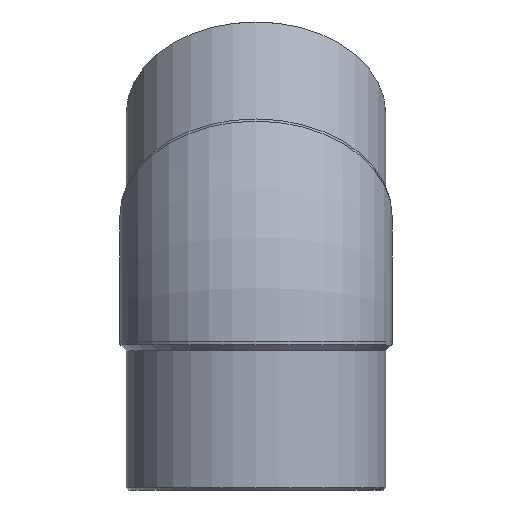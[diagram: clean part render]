
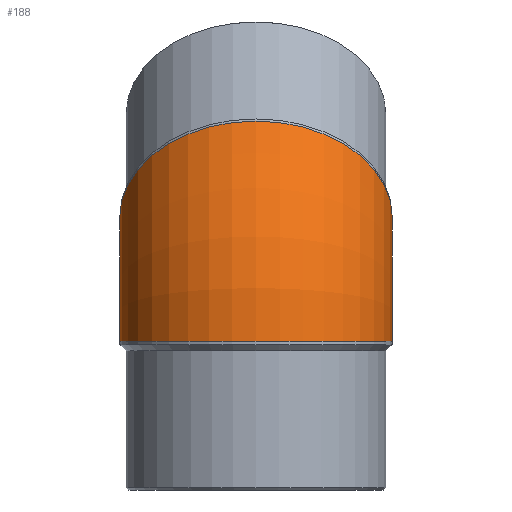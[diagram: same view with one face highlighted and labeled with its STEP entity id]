
A CAD part, left-side view. The second image highlights one B-rep face of the part: STEP entity #188.
In plain terms, the highlighted toroidal (fillet/blend) face has major radius 168.995 mm and minor radius 131 mm.
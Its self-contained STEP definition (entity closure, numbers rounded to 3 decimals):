
#20=TOROIDAL_SURFACE('',#225,168.995,131.);
#53=ORIENTED_EDGE('',*,*,#86,.F.);
#54=ORIENTED_EDGE('',*,*,#87,.T.);
#86=EDGE_CURVE('',#104,#104,#118,.F.);
#87=EDGE_CURVE('',#105,#105,#119,.F.);
#104=VERTEX_POINT('',#353);
#105=VERTEX_POINT('',#356);
#118=CIRCLE('',#224,131.);
#119=CIRCLE('',#226,131.);
#136=EDGE_LOOP('',(#53));
#137=EDGE_LOOP('',(#54));
#163=FACE_BOUND('',#136,.T.);
#164=FACE_BOUND('',#137,.T.);
#188=ADVANCED_FACE('',(#163,#164),#20,.T.);
#224=AXIS2_PLACEMENT_3D('',#352,#270,#271);
#225=AXIS2_PLACEMENT_3D('',#354,#272,#273);
#226=AXIS2_PLACEMENT_3D('',#355,#274,#275);
#270=DIRECTION('',(-0.707,0.,-0.707));
#271=DIRECTION('',(0.707,0.,-0.707));
#272=DIRECTION('',(0.,1.,0.));
#273=DIRECTION('',(0.,0.,1.));
#274=DIRECTION('',(0.,0.,-1.));
#275=DIRECTION('',(1.,0.,0.));
#352=CARTESIAN_POINT('',(49.497,0.,49.497));
#353=CARTESIAN_POINT('',(142.128,0.,-43.134));
#354=CARTESIAN_POINT('',(168.995,0.,-70.));
#355=CARTESIAN_POINT('',(0.,0.,-70.));
#356=CARTESIAN_POINT('',(131.,0.,-70.));
